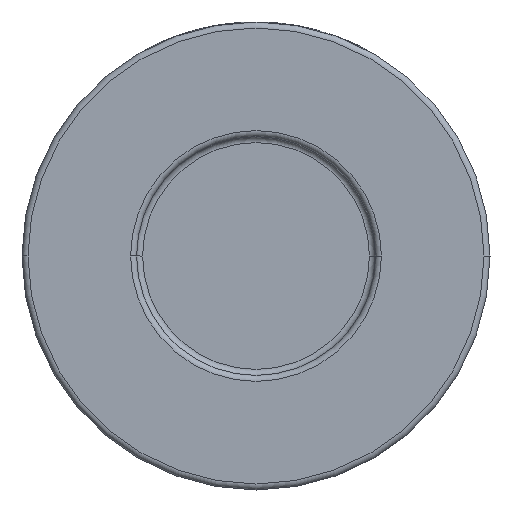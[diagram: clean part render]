
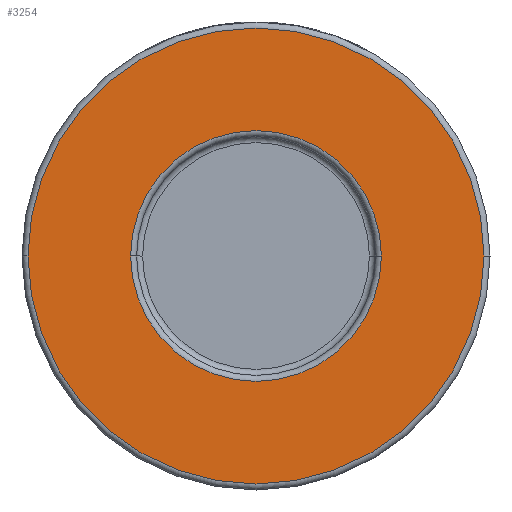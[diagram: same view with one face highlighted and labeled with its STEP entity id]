
A CAD part, front view. The second image highlights one B-rep face of the part: STEP entity #3254.
In plain terms, the highlighted planar face has unit normal (0, -1, 0).
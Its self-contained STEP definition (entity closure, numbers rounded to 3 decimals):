
#56 = CARTESIAN_POINT ( 'NONE',  ( -38., -26., 0. ) ) ;
#80 = VERTEX_POINT ( 'NONE', #3943 ) ;
#193 = DIRECTION ( 'NONE',  ( 0., 1., 0. ) ) ;
#468 = VERTEX_POINT ( 'NONE', #2541 ) ;
#498 = CARTESIAN_POINT ( 'NONE',  ( 20.9, -26., 0. ) ) ;
#533 = CARTESIAN_POINT ( 'NONE',  ( 39., -26., 0. ) ) ;
#617 = DIRECTION ( 'NONE',  ( 1., 0., 0. ) ) ;
#729 = ORIENTED_EDGE ( 'NONE', *, *, #1891, .T. ) ;
#942 = AXIS2_PLACEMENT_3D ( 'NONE', #2800, #2223, #4400 ) ;
#1012 = EDGE_CURVE ( 'NONE', #4253, #80, #1976, .T. ) ;
#1154 = CIRCLE ( 'NONE', #1684, 38. ) ;
#1210 = CARTESIAN_POINT ( 'NONE',  ( 0., -26., 0. ) ) ;
#1259 = DIRECTION ( 'NONE',  ( 1., 0., 0. ) ) ;
#1404 = VERTEX_POINT ( 'NONE', #56 ) ;
#1430 = CARTESIAN_POINT ( 'NONE',  ( 0., -26., 0. ) ) ;
#1684 = AXIS2_PLACEMENT_3D ( 'NONE', #1430, #4146, #3480 ) ;
#1695 = CIRCLE ( 'NONE', #4287, 38. ) ;
#1891 = EDGE_CURVE ( 'NONE', #80, #4253, #2933, .T. ) ;
#1941 = EDGE_LOOP ( 'NONE', ( #3032, #4548 ) ) ;
#1976 = CIRCLE ( 'NONE', #4338, 20.9 ) ;
#2223 = DIRECTION ( 'NONE',  ( 0., 1., 0. ) ) ;
#2363 = DIRECTION ( 'NONE',  ( 0., -1., 0. ) ) ;
#2541 = CARTESIAN_POINT ( 'NONE',  ( 38., -26., 0. ) ) ;
#2800 = CARTESIAN_POINT ( 'NONE',  ( 0., -26., 0. ) ) ;
#2933 = CIRCLE ( 'NONE', #942, 20.9 ) ;
#3032 = ORIENTED_EDGE ( 'NONE', *, *, #3979, .T. ) ;
#3254 = ADVANCED_FACE ( 'NONE', ( #4320, #3376 ), #3441, .T. ) ;
#3344 = CARTESIAN_POINT ( 'NONE',  ( 0., -26., 0. ) ) ;
#3376 = FACE_OUTER_BOUND ( 'NONE', #1941, .T. ) ;
#3441 = PLANE ( 'NONE',  #4419 ) ;
#3456 = EDGE_CURVE ( 'NONE', #1404, #468, #1695, .T. ) ;
#3480 = DIRECTION ( 'NONE',  ( 1., 0., 0. ) ) ;
#3661 = ORIENTED_EDGE ( 'NONE', *, *, #1012, .T. ) ;
#3753 = DIRECTION ( 'NONE',  ( 1., 0., 0. ) ) ;
#3943 = CARTESIAN_POINT ( 'NONE',  ( -20.9, -26., 0. ) ) ;
#3979 = EDGE_CURVE ( 'NONE', #468, #1404, #1154, .T. ) ;
#4133 = DIRECTION ( 'NONE',  ( 0., -1., 0. ) ) ;
#4146 = DIRECTION ( 'NONE',  ( 0., -1., 0. ) ) ;
#4186 = EDGE_LOOP ( 'NONE', ( #3661, #729 ) ) ;
#4253 = VERTEX_POINT ( 'NONE', #498 ) ;
#4287 = AXIS2_PLACEMENT_3D ( 'NONE', #3344, #2363, #617 ) ;
#4320 = FACE_BOUND ( 'NONE', #4186, .T. ) ;
#4338 = AXIS2_PLACEMENT_3D ( 'NONE', #1210, #193, #1259 ) ;
#4400 = DIRECTION ( 'NONE',  ( 1., 0., 0. ) ) ;
#4419 = AXIS2_PLACEMENT_3D ( 'NONE', #533, #4133, #3753 ) ;
#4548 = ORIENTED_EDGE ( 'NONE', *, *, #3456, .T. ) ;
